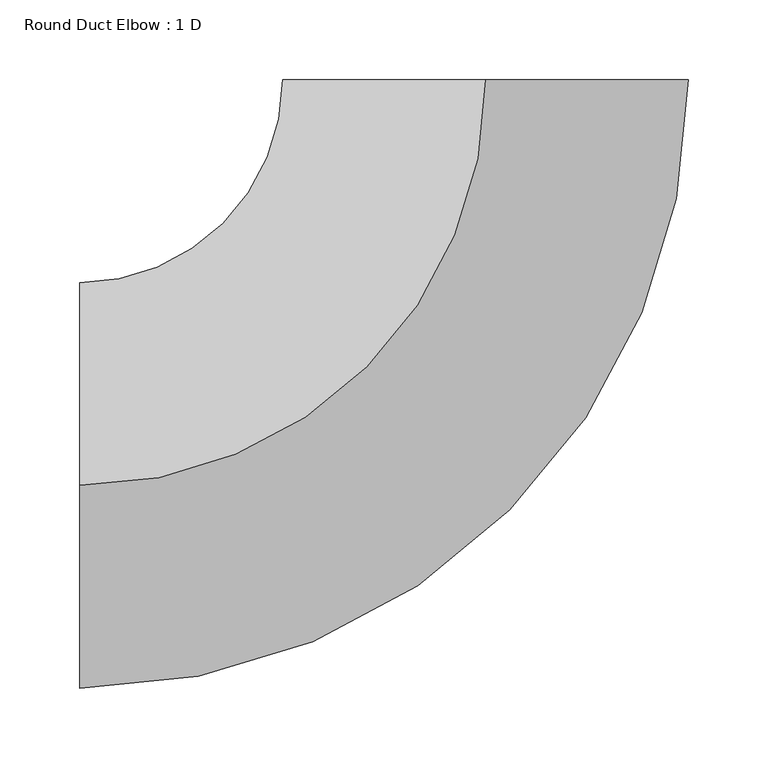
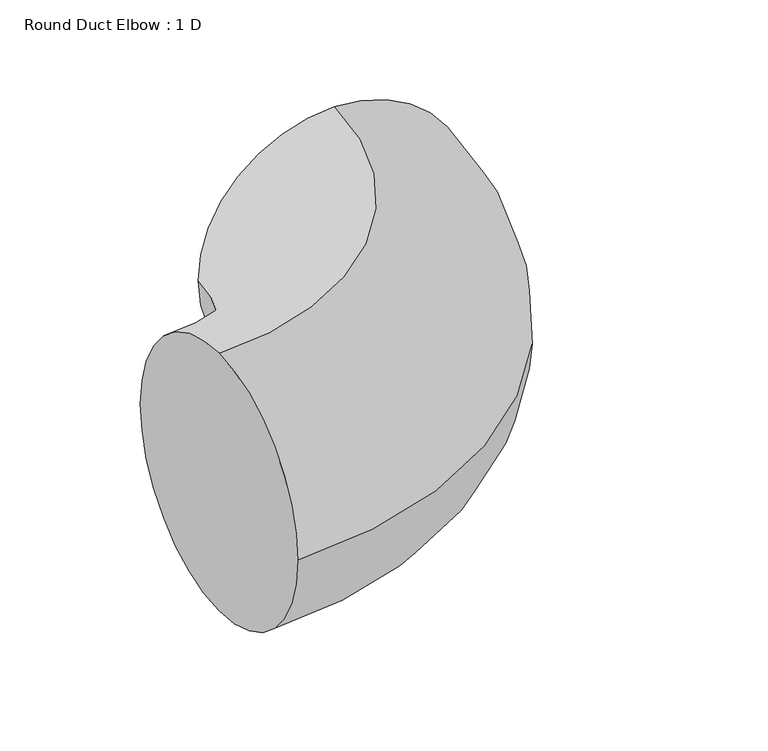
"""IFC4 building model written with IfcOpenShell, lengths in millimetres: duct fitting geometry, Round Duct Elbow : 1 D."""

from ifc_helpers import new_model, si_unit, point, frame, origin, place, context, project, spatial, circle_curve, ellipse_curve, trimmed, source, transform, mapped, element, save
from ifc_brep_helpers import plane_surface, revolved_surface, advanced_brep


def round_duct_elbow_1_d_c5153b07(model_context):
    return source(origin(), model_context, "Body", "AdvancedBrep", [
        advanced_brep(
        [(-254.0, 0.0, 127.0), (-254.0, 127.0, 0.0), (-254.0, 0.0, -127.0), (-254.0, -127.0, 0.0), (0.0, 254.0, 127.0), (127.0, 254.0, 0.0), (0.0, 254.0, -127.0), (-127.0, 254.0, 0.0)],
        [
            (0, 1, circle_curve(frame((-254.0, 0.0, 0.0), z_axis=(-1.0, 0.0, 0.0), x_axis=(0.0, 1.0, 0.0)), 127.0)),
            (1, 2, circle_curve(frame((-254.0, 0.0, 0.0), z_axis=(-1.0, 0.0, 0.0), x_axis=(0.0, 1.0, 0.0)), 127.0)),
            (2, 3, circle_curve(frame((-254.0, 0.0, 0.0), z_axis=(-1.0, 0.0, 0.0), x_axis=(0.0, 1.0, 0.0)), 127.0)),
            (3, 0, circle_curve(frame((-254.0, 0.0, 0.0), z_axis=(-1.0, 0.0, 0.0), x_axis=(0.0, 1.0, 0.0)), 127.0)),
            (4, 5, circle_curve(frame((0.0, 254.0, 0.0), z_axis=(0.0, 1.0, 0.0), x_axis=(-1.0, 0.0, 0.0)), 127.0)),
            (5, 6, circle_curve(frame((0.0, 254.0, 0.0), z_axis=(0.0, 1.0, 0.0), x_axis=(-1.0, 0.0, 0.0)), 127.0)),
            (6, 7, circle_curve(frame((0.0, 254.0, 0.0), z_axis=(0.0, 1.0, 0.0), x_axis=(-1.0, 0.0, 0.0)), 127.0)),
            (7, 4, circle_curve(frame((0.0, 254.0, 0.0), z_axis=(0.0, 1.0, 0.0), x_axis=(-1.0, 0.0, 0.0)), 127.0)),
            (7, 1, circle_curve(frame((-254.0, 254.0, 0.0), z_axis=(0.0, 0.0, -1.0), x_axis=(0.0, -1.0, 0.0)), 127.0)),
            (0, 4, circle_curve(frame((-254.0, 254.0, 127.0), z_axis=(0.0, 0.0, 1.0), x_axis=(0.0, -1.0, 0.0)), 254.0)),
            (6, 2, circle_curve(frame((-254.0, 254.0, -127.0), z_axis=(0.0, 0.0, -1.0), x_axis=(0.0, -1.0, 0.0)), 254.0)),
            (5, 3, circle_curve(frame((-254.0, 254.0, 0.0), z_axis=(0.0, 0.0, -1.0), x_axis=(0.0, -1.0, 0.0)), 381.0)),
        ],
        [
            plane_surface(frame((-254.0, 0.0, 0.0), z_axis=(-1.0, 0.0, 0.0), x_axis=(0.0, 0.0, 1.0))),
            plane_surface(frame((0.0, 254.0, 0.0), z_axis=(0.0, 1.0, 0.0), x_axis=(0.0, 0.0, 1.0))),
            revolved_surface(trimmed(ellipse_curve(frame((-254.0, 0.0, 0.0), z_axis=(-1.0, 0.0, 0.0), x_axis=(0.0, 1.0, 0.0)), 127.0, 127.0), [point((-254.0, 0.0, 127.0))], [point((-254.0, 127.0, 0.0))], True, "CARTESIAN"), (-254.0, 254.0, 0.0), (0.0, 0.0, 1.0)),
            revolved_surface(trimmed(ellipse_curve(frame((-254.0, 0.0, 0.0), z_axis=(-1.0, 0.0, 0.0), x_axis=(0.0, 1.0, 0.0)), 127.0, 127.0), [point((-254.0, 127.0, 0.0))], [point((-254.0, 0.0, -127.0))], True, "CARTESIAN"), (-254.0, 254.0, 0.0), (0.0, 0.0, 1.0)),
            revolved_surface(trimmed(ellipse_curve(frame((-254.0, 0.0, 0.0), z_axis=(-1.0, 0.0, 0.0), x_axis=(0.0, 1.0, 0.0)), 127.0, 127.0), [point((-254.0, 0.0, -127.0))], [point((-254.0, -127.0, 0.0))], True, "CARTESIAN"), (-254.0, 254.0, 0.0), (0.0, 0.0, 1.0)),
            revolved_surface(trimmed(ellipse_curve(frame((-254.0, 0.0, 0.0), z_axis=(-1.0, 0.0, 0.0), x_axis=(0.0, 1.0, 0.0)), 127.0, 127.0), [point((-254.0, -127.0, 0.0))], [point((-254.0, 0.0, 127.0))], True, "CARTESIAN"), (-254.0, 254.0, 0.0), (0.0, 0.0, 1.0)),
        ],
        [
            (0, [[1, 2, 3, 4]]),
            (1, [[5, 6, 7, 8]]),
            (2, [[9, -1, 10, -8]]),
            (3, [[11, -2, -9, -7]]),
            (4, [[12, -3, -11, -6]]),
            (5, [[-10, -4, -12, -5]]),
        ],
    ),
        advanced_brep(
        [(-254.0, 0.0, 127.0), (-254.0, 127.0, 0.0), (-254.0, 0.0, -127.0), (-254.0, -127.0, 0.0), (0.0, 254.0, 127.0), (127.0, 254.0, 0.0), (0.0, 254.0, -127.0), (-127.0, 254.0, 0.0)],
        [
            (0, 1, circle_curve(frame((-254.0, 0.0, 0.0), z_axis=(-1.0, 0.0, 0.0), x_axis=(0.0, 1.0, 0.0)), 127.0)),
            (1, 2, circle_curve(frame((-254.0, 0.0, 0.0), z_axis=(-1.0, 0.0, 0.0), x_axis=(0.0, 1.0, 0.0)), 127.0)),
            (2, 3, circle_curve(frame((-254.0, 0.0, 0.0), z_axis=(-1.0, 0.0, 0.0), x_axis=(0.0, 1.0, 0.0)), 127.0)),
            (3, 0, circle_curve(frame((-254.0, 0.0, 0.0), z_axis=(-1.0, 0.0, 0.0), x_axis=(0.0, 1.0, 0.0)), 127.0)),
            (4, 5, circle_curve(frame((0.0, 254.0, 0.0), z_axis=(0.0, 1.0, 0.0), x_axis=(-1.0, 0.0, 0.0)), 127.0)),
            (5, 6, circle_curve(frame((0.0, 254.0, 0.0), z_axis=(0.0, 1.0, 0.0), x_axis=(-1.0, 0.0, 0.0)), 127.0)),
            (6, 7, circle_curve(frame((0.0, 254.0, 0.0), z_axis=(0.0, 1.0, 0.0), x_axis=(-1.0, 0.0, 0.0)), 127.0)),
            (7, 4, circle_curve(frame((0.0, 254.0, 0.0), z_axis=(0.0, 1.0, 0.0), x_axis=(-1.0, 0.0, 0.0)), 127.0)),
            (7, 1, circle_curve(frame((-254.0, 254.0, 0.0), z_axis=(0.0, 0.0, -1.0), x_axis=(0.0, -1.0, 0.0)), 127.0)),
            (0, 4, circle_curve(frame((-254.0, 254.0, 127.0), z_axis=(0.0, 0.0, 1.0), x_axis=(0.0, -1.0, 0.0)), 254.0)),
            (6, 2, circle_curve(frame((-254.0, 254.0, -127.0), z_axis=(0.0, 0.0, -1.0), x_axis=(0.0, -1.0, 0.0)), 254.0)),
            (5, 3, circle_curve(frame((-254.0, 254.0, 0.0), z_axis=(0.0, 0.0, -1.0), x_axis=(0.0, -1.0, 0.0)), 381.0)),
        ],
        [
            plane_surface(frame((-254.0, 0.0, 0.0), z_axis=(-1.0, 0.0, 0.0), x_axis=(0.0, 0.0, 1.0))),
            plane_surface(frame((0.0, 254.0, 0.0), z_axis=(0.0, 1.0, 0.0), x_axis=(0.0, 0.0, 1.0))),
            revolved_surface(trimmed(ellipse_curve(frame((-254.0, 0.0, 0.0), z_axis=(-1.0, 0.0, 0.0), x_axis=(0.0, 1.0, 0.0)), 127.0, 127.0), [point((-254.0, 0.0, 127.0))], [point((-254.0, 127.0, 0.0))], True, "CARTESIAN"), (-254.0, 254.0, 0.0), (0.0, 0.0, 1.0)),
            revolved_surface(trimmed(ellipse_curve(frame((-254.0, 0.0, 0.0), z_axis=(-1.0, 0.0, 0.0), x_axis=(0.0, 1.0, 0.0)), 127.0, 127.0), [point((-254.0, 127.0, 0.0))], [point((-254.0, 0.0, -127.0))], True, "CARTESIAN"), (-254.0, 254.0, 0.0), (0.0, 0.0, 1.0)),
            revolved_surface(trimmed(ellipse_curve(frame((-254.0, 0.0, 0.0), z_axis=(-1.0, 0.0, 0.0), x_axis=(0.0, 1.0, 0.0)), 127.0, 127.0), [point((-254.0, 0.0, -127.0))], [point((-254.0, -127.0, 0.0))], True, "CARTESIAN"), (-254.0, 254.0, 0.0), (0.0, 0.0, 1.0)),
            revolved_surface(trimmed(ellipse_curve(frame((-254.0, 0.0, 0.0), z_axis=(-1.0, 0.0, 0.0), x_axis=(0.0, 1.0, 0.0)), 127.0, 127.0), [point((-254.0, -127.0, 0.0))], [point((-254.0, 0.0, 127.0))], True, "CARTESIAN"), (-254.0, 254.0, 0.0), (0.0, 0.0, 1.0)),
        ],
        [
            (0, [[1, 2, 3, 4]]),
            (1, [[5, 6, 7, 8]]),
            (2, [[9, -1, 10, -8]]),
            (3, [[11, -2, -9, -7]]),
            (4, [[12, -3, -11, -6]]),
            (5, [[-10, -4, -12, -5]]),
        ],
    ),
        advanced_brep(
        [(-254.0, 0.0, 127.0), (-254.0, 127.0, 0.0), (-254.0, 0.0, -127.0), (-254.0, -127.0, 0.0), (0.0, 254.0, 127.0), (127.0, 254.0, 0.0), (0.0, 254.0, -127.0), (-127.0, 254.0, 0.0)],
        [
            (0, 1, circle_curve(frame((-254.0, 0.0, 0.0), z_axis=(-1.0, 0.0, 0.0), x_axis=(0.0, 1.0, 0.0)), 127.0)),
            (1, 2, circle_curve(frame((-254.0, 0.0, 0.0), z_axis=(-1.0, 0.0, 0.0), x_axis=(0.0, 1.0, 0.0)), 127.0)),
            (2, 3, circle_curve(frame((-254.0, 0.0, 0.0), z_axis=(-1.0, 0.0, 0.0), x_axis=(0.0, 1.0, 0.0)), 127.0)),
            (3, 0, circle_curve(frame((-254.0, 0.0, 0.0), z_axis=(-1.0, 0.0, 0.0), x_axis=(0.0, 1.0, 0.0)), 127.0)),
            (4, 5, circle_curve(frame((0.0, 254.0, 0.0), z_axis=(0.0, 1.0, 0.0), x_axis=(-1.0, 0.0, 0.0)), 127.0)),
            (5, 6, circle_curve(frame((0.0, 254.0, 0.0), z_axis=(0.0, 1.0, 0.0), x_axis=(-1.0, 0.0, 0.0)), 127.0)),
            (6, 7, circle_curve(frame((0.0, 254.0, 0.0), z_axis=(0.0, 1.0, 0.0), x_axis=(-1.0, 0.0, 0.0)), 127.0)),
            (7, 4, circle_curve(frame((0.0, 254.0, 0.0), z_axis=(0.0, 1.0, 0.0), x_axis=(-1.0, 0.0, 0.0)), 127.0)),
            (7, 1, circle_curve(frame((-254.0, 254.0, 0.0), z_axis=(0.0, 0.0, -1.0), x_axis=(0.0, -1.0, 0.0)), 127.0)),
            (0, 4, circle_curve(frame((-254.0, 254.0, 127.0), z_axis=(0.0, 0.0, 1.0), x_axis=(0.0, -1.0, 0.0)), 254.0)),
            (6, 2, circle_curve(frame((-254.0, 254.0, -127.0), z_axis=(0.0, 0.0, -1.0), x_axis=(0.0, -1.0, 0.0)), 254.0)),
            (5, 3, circle_curve(frame((-254.0, 254.0, 0.0), z_axis=(0.0, 0.0, -1.0), x_axis=(0.0, -1.0, 0.0)), 381.0)),
        ],
        [
            plane_surface(frame((-254.0, 0.0, 0.0), z_axis=(-1.0, 0.0, 0.0), x_axis=(0.0, 0.0, 1.0))),
            plane_surface(frame((0.0, 254.0, 0.0), z_axis=(0.0, 1.0, 0.0), x_axis=(0.0, 0.0, 1.0))),
            revolved_surface(trimmed(ellipse_curve(frame((-254.0, 0.0, 0.0), z_axis=(-1.0, 0.0, 0.0), x_axis=(0.0, 1.0, 0.0)), 127.0, 127.0), [point((-254.0, 0.0, 127.0))], [point((-254.0, 127.0, 0.0))], True, "CARTESIAN"), (-254.0, 254.0, 0.0), (0.0, 0.0, 1.0)),
            revolved_surface(trimmed(ellipse_curve(frame((-254.0, 0.0, 0.0), z_axis=(-1.0, 0.0, 0.0), x_axis=(0.0, 1.0, 0.0)), 127.0, 127.0), [point((-254.0, 127.0, 0.0))], [point((-254.0, 0.0, -127.0))], True, "CARTESIAN"), (-254.0, 254.0, 0.0), (0.0, 0.0, 1.0)),
            revolved_surface(trimmed(ellipse_curve(frame((-254.0, 0.0, 0.0), z_axis=(-1.0, 0.0, 0.0), x_axis=(0.0, 1.0, 0.0)), 127.0, 127.0), [point((-254.0, 0.0, -127.0))], [point((-254.0, -127.0, 0.0))], True, "CARTESIAN"), (-254.0, 254.0, 0.0), (0.0, 0.0, 1.0)),
            revolved_surface(trimmed(ellipse_curve(frame((-254.0, 0.0, 0.0), z_axis=(-1.0, 0.0, 0.0), x_axis=(0.0, 1.0, 0.0)), 127.0, 127.0), [point((-254.0, -127.0, 0.0))], [point((-254.0, 0.0, 127.0))], True, "CARTESIAN"), (-254.0, 254.0, 0.0), (0.0, 0.0, 1.0)),
        ],
        [
            (0, [[1, 2, 3, 4]]),
            (1, [[5, 6, 7, 8]]),
            (2, [[9, -1, 10, -8]]),
            (3, [[11, -2, -9, -7]]),
            (4, [[12, -3, -11, -6]]),
            (5, [[-10, -4, -12, -5]]),
        ],
    ),
    ])


if __name__ == "__main__":
    model = new_model("IFC4")
    model_context = context("Model", 3, world=origin())
    ifc_project = project(units=[si_unit("LENGTHUNIT", "METRE", prefix="MILLI")], contexts=[model_context])
    site = spatial("IfcSite", under=ifc_project)
    building = spatial("IfcBuilding", under=site)
    placement = place(None, origin())
    round_duct_elbow_1_d_shape = round_duct_elbow_1_d_c5153b07(model_context)
    element("IfcDuctFitting", 1, ObjectType="Round Duct Elbow : 1 D", at=placement, inside=building, context=model_context, shape_type="MappedRepresentation", body=[
        mapped(round_duct_elbow_1_d_shape, transform((0.0, 0.0, 0.0), x_axis=(1.0, 0.0, 0.0), y_axis=(0.0, 1.0, 0.0), z_axis=(0.0, 0.0, 1.0))),
    ])
    save(model, "model.ifc")
